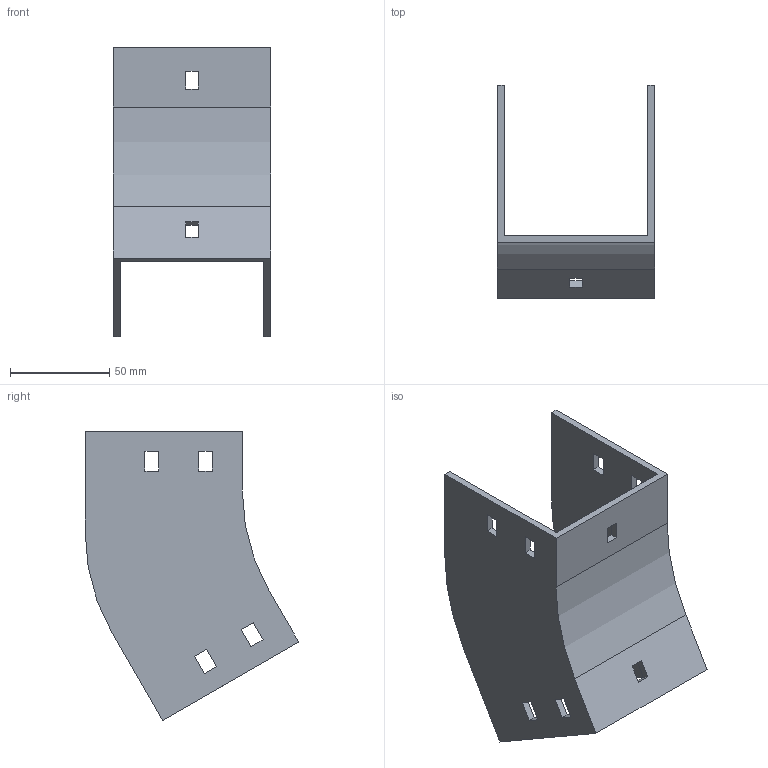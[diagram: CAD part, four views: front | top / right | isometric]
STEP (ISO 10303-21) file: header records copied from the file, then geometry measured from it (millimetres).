
FILE_DESCRIPTION (( 'STEP AP214' ), '1' );
FILE_NAME ('35F1C075.step', '2025-02-21T12:49:45', ( '' ), ( '' ), 'SwSTEP 2.0', 'SolidWorks 2023', '' );
FILE_SCHEMA (( 'AUTOMOTIVE_DESIGN' ));
Length unit declared in the file: millimetre
Products named in the file (1): 35F1C075
Bounding box: 79 x 107.4 x 145.48 mm (x, y, z)
Volume: 100697.2 mm3; surface area: 61396.7 mm2
Topology: 1 solids, 1 shells, 58 faces, 168 edges, 112 vertices
Faces by surface type: plane 54, cylinder 4
Entity records: 1943 total; most frequent: CARTESIAN_POINT 339, ORIENTED_EDGE 336, DIRECTION 294, EDGE_CURVE 168, VECTOR 160, LINE 160, VERTEX_POINT 112, EDGE_LOOP 78
